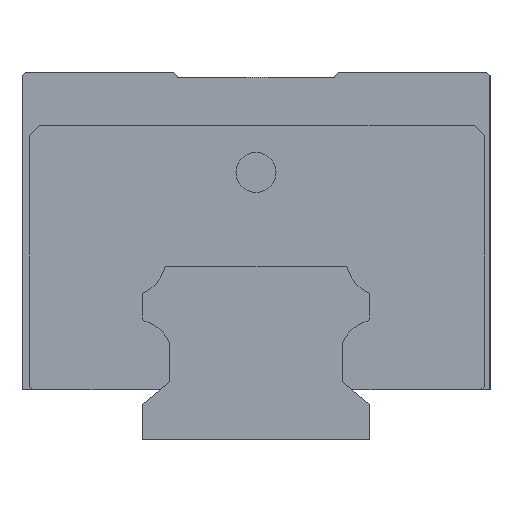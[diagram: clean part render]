
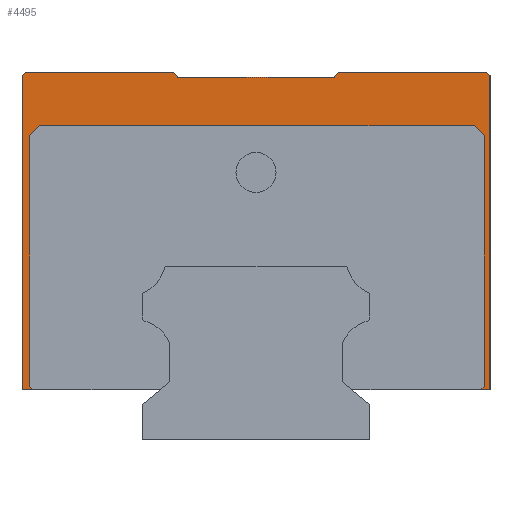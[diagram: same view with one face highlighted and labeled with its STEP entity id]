
A CAD part, left-side view. The second image highlights one B-rep face of the part: STEP entity #4495.
In plain terms, the highlighted planar face has unit normal (-1, 0, 0).
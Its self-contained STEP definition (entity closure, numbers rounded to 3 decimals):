
#60 = DIRECTION ( 'NONE',  ( 0., 0.707, 0.707 ) ) ;
#61 = CARTESIAN_POINT ( 'NONE',  ( -39.5, 12.296, 55. ) ) ;
#170 = CARTESIAN_POINT ( 'NONE',  ( -39.5, 35., 7.5 ) ) ;
#178 = VECTOR ( 'NONE', #60, 1000. ) ;
#263 = CARTESIAN_POINT ( 'NONE',  ( -39.5, -33.628, 7.5 ) ) ;
#285 = DIRECTION ( 'NONE',  ( 0., 0.643, 0.766 ) ) ;
#302 = DIRECTION ( 'NONE',  ( 0., -1., 0. ) ) ;
#365 = LINE ( 'NONE', #1342, #1072 ) ;
#400 = CARTESIAN_POINT ( 'NONE',  ( -39.5, -35., 7.5 ) ) ;
#435 = VERTEX_POINT ( 'NONE', #2605 ) ;
#469 = ORIENTED_EDGE ( 'NONE', *, *, #3415, .F. ) ;
#535 = DIRECTION ( 'NONE',  ( 0., -0.707, 0.707 ) ) ;
#545 = VECTOR ( 'NONE', #621, 1000. ) ;
#588 = EDGE_CURVE ( 'NONE', #5674, #435, #2805, .T. ) ;
#621 = DIRECTION ( 'NONE',  ( 0., 1., 0. ) ) ;
#674 = VERTEX_POINT ( 'NONE', #2185 ) ;
#738 = CARTESIAN_POINT ( 'NONE',  ( -39.5, -35., 55. ) ) ;
#764 = CARTESIAN_POINT ( 'NONE',  ( -39.5, -11.667, 54.25 ) ) ;
#820 = VERTEX_POINT ( 'NONE', #2352 ) ;
#841 = LINE ( 'NONE', #400, #3614 ) ;
#848 = EDGE_CURVE ( 'NONE', #1917, #674, #3618, .T. ) ;
#974 = CARTESIAN_POINT ( 'NONE',  ( -39.5, 14.65, 7.5 ) ) ;
#990 = VERTEX_POINT ( 'NONE', #1083 ) ;
#1018 = EDGE_CURVE ( 'NONE', #5177, #5674, #2024, .T. ) ;
#1072 = VECTOR ( 'NONE', #4921, 1000. ) ;
#1083 = CARTESIAN_POINT ( 'NONE',  ( -39.5, -11.667, 54.25 ) ) ;
#1144 = DIRECTION ( 'NONE',  ( 0., 0., -1. ) ) ;
#1202 = VECTOR ( 'NONE', #1144, 1000. ) ;
#1210 = VECTOR ( 'NONE', #535, 1000. ) ;
#1217 = VERTEX_POINT ( 'NONE', #2063 ) ;
#1239 = LINE ( 'NONE', #2497, #1400 ) ;
#1241 = CARTESIAN_POINT ( 'NONE',  ( -39.5, 32.372, 47. ) ) ;
#1265 = CARTESIAN_POINT ( 'NONE',  ( -39.5, 33.872, 8. ) ) ;
#1272 = ORIENTED_EDGE ( 'NONE', *, *, #3711, .F. ) ;
#1331 = CARTESIAN_POINT ( 'NONE',  ( -39.5, 34.5, 55. ) ) ;
#1342 = CARTESIAN_POINT ( 'NONE',  ( -39.5, -12.296, 55. ) ) ;
#1400 = VECTOR ( 'NONE', #5615, 1000. ) ;
#1418 = VERTEX_POINT ( 'NONE', #1331 ) ;
#1434 = DIRECTION ( 'NONE',  ( 0., 0.707, 0.707 ) ) ;
#1506 = CARTESIAN_POINT ( 'NONE',  ( -39.5, -33.628, 7.5 ) ) ;
#1535 = VERTEX_POINT ( 'NONE', #5418 ) ;
#1538 = EDGE_CURVE ( 'NONE', #4053, #3972, #4976, .T. ) ;
#1638 = LINE ( 'NONE', #2141, #4933 ) ;
#1650 = DIRECTION ( 'NONE',  ( 1., 0., 0. ) ) ;
#1731 = ORIENTED_EDGE ( 'NONE', *, *, #2488, .F. ) ;
#1762 = CARTESIAN_POINT ( 'NONE',  ( -39.5, -34.128, 45.5 ) ) ;
#1816 = ORIENTED_EDGE ( 'NONE', *, *, #3962, .T. ) ;
#1873 = LINE ( 'NONE', #3663, #2882 ) ;
#1916 = VECTOR ( 'NONE', #3589, 1000. ) ;
#1917 = VERTEX_POINT ( 'NONE', #1762 ) ;
#1964 = VERTEX_POINT ( 'NONE', #2233 ) ;
#1969 = CARTESIAN_POINT ( 'NONE',  ( -39.5, -32.628, 47. ) ) ;
#1982 = EDGE_CURVE ( 'NONE', #4053, #3133, #1873, .T. ) ;
#2009 = VECTOR ( 'NONE', #5677, 1000. ) ;
#2016 = ORIENTED_EDGE ( 'NONE', *, *, #1538, .F. ) ;
#2024 = LINE ( 'NONE', #5168, #1202 ) ;
#2036 = VECTOR ( 'NONE', #5102, 1000. ) ;
#2063 = CARTESIAN_POINT ( 'NONE',  ( -39.5, -34.128, 8. ) ) ;
#2085 = ORIENTED_EDGE ( 'NONE', *, *, #5387, .T. ) ;
#2090 = FACE_OUTER_BOUND ( 'NONE', #2485, .T. ) ;
#2141 = CARTESIAN_POINT ( 'NONE',  ( -39.5, 11.667, 54.25 ) ) ;
#2185 = CARTESIAN_POINT ( 'NONE',  ( -39.5, -32.628, 47. ) ) ;
#2233 = CARTESIAN_POINT ( 'NONE',  ( -39.5, 35., 54.5 ) ) ;
#2329 = LINE ( 'NONE', #1969, #4221 ) ;
#2352 = CARTESIAN_POINT ( 'NONE',  ( -39.5, 32.372, 47. ) ) ;
#2416 = VERTEX_POINT ( 'NONE', #61 ) ;
#2485 = EDGE_LOOP ( 'NONE', ( #2965, #1272, #3094, #2016, #3340, #469, #2085, #1816, #5477, #5622, #5707, #5208, #2912, #3923, #4386, #4635, #1731, #4612 ) ) ;
#2488 = EDGE_CURVE ( 'NONE', #674, #820, #2329, .T. ) ;
#2497 = CARTESIAN_POINT ( 'NONE',  ( -39.5, 34.5, 55. ) ) ;
#2558 = DIRECTION ( 'NONE',  ( 0., 1., 0. ) ) ;
#2559 = PLANE ( 'NONE',  #5510 ) ;
#2605 = CARTESIAN_POINT ( 'NONE',  ( -39.5, 33.372, 7.5 ) ) ;
#2617 = CARTESIAN_POINT ( 'NONE',  ( -39.5, -35., 54.5 ) ) ;
#2716 = CARTESIAN_POINT ( 'NONE',  ( -39.5, -34.128, 45.5 ) ) ;
#2805 = LINE ( 'NONE', #4157, #4380 ) ;
#2842 = VERTEX_POINT ( 'NONE', #3752 ) ;
#2863 = DIRECTION ( 'NONE',  ( 0., -0.707, -0.707 ) ) ;
#2882 = VECTOR ( 'NONE', #1434, 1000. ) ;
#2912 = ORIENTED_EDGE ( 'NONE', *, *, #3716, .F. ) ;
#2965 = ORIENTED_EDGE ( 'NONE', *, *, #3024, .F. ) ;
#2976 = CARTESIAN_POINT ( 'NONE',  ( -39.5, 35., 55. ) ) ;
#3012 = CARTESIAN_POINT ( 'NONE',  ( -39.5, 35., 55. ) ) ;
#3024 = EDGE_CURVE ( 'NONE', #1217, #1917, #4397, .T. ) ;
#3094 = ORIENTED_EDGE ( 'NONE', *, *, #4923, .F. ) ;
#3133 = VERTEX_POINT ( 'NONE', #4485 ) ;
#3259 = CARTESIAN_POINT ( 'NONE',  ( -39.5, 11.667, 54.25 ) ) ;
#3340 = ORIENTED_EDGE ( 'NONE', *, *, #1982, .T. ) ;
#3415 = EDGE_CURVE ( 'NONE', #2842, #3133, #4828, .T. ) ;
#3438 = DIRECTION ( 'NONE',  ( 0., 1., 0. ) ) ;
#3589 = DIRECTION ( 'NONE',  ( 0., 0., -1. ) ) ;
#3614 = VECTOR ( 'NONE', #5377, 1000. ) ;
#3618 = LINE ( 'NONE', #2716, #178 ) ;
#3663 = CARTESIAN_POINT ( 'NONE',  ( -39.5, -35., 54.5 ) ) ;
#3680 = LINE ( 'NONE', #974, #545 ) ;
#3711 = EDGE_CURVE ( 'NONE', #3919, #1217, #5087, .T. ) ;
#3716 = EDGE_CURVE ( 'NONE', #435, #1535, #3680, .T. ) ;
#3752 = CARTESIAN_POINT ( 'NONE',  ( -39.5, -12.296, 55. ) ) ;
#3760 = VERTEX_POINT ( 'NONE', #3259 ) ;
#3833 = LINE ( 'NONE', #3012, #5117 ) ;
#3881 = EDGE_CURVE ( 'NONE', #1418, #1964, #1239, .T. ) ;
#3919 = VERTEX_POINT ( 'NONE', #263 ) ;
#3923 = ORIENTED_EDGE ( 'NONE', *, *, #588, .F. ) ;
#3962 = EDGE_CURVE ( 'NONE', #990, #3760, #4795, .T. ) ;
#3972 = VERTEX_POINT ( 'NONE', #5324 ) ;
#4053 = VERTEX_POINT ( 'NONE', #2617 ) ;
#4116 = CARTESIAN_POINT ( 'NONE',  ( -39.5, -35., 55. ) ) ;
#4139 = VECTOR ( 'NONE', #302, 1000. ) ;
#4157 = CARTESIAN_POINT ( 'NONE',  ( -39.5, 33.872, 8. ) ) ;
#4159 = EDGE_CURVE ( 'NONE', #1535, #1964, #4547, .T. ) ;
#4221 = VECTOR ( 'NONE', #5447, 1000. ) ;
#4248 = CARTESIAN_POINT ( 'NONE',  ( -39.5, 33.872, 45.5 ) ) ;
#4308 = VECTOR ( 'NONE', #2558, 1000. ) ;
#4380 = VECTOR ( 'NONE', #2863, 1000. ) ;
#4386 = ORIENTED_EDGE ( 'NONE', *, *, #1018, .F. ) ;
#4397 = LINE ( 'NONE', #4663, #5069 ) ;
#4485 = CARTESIAN_POINT ( 'NONE',  ( -39.5, -34.5, 55. ) ) ;
#4495 = ADVANCED_FACE ( 'NONE', ( #2090 ), #2559, .F. ) ;
#4547 = LINE ( 'NONE', #170, #2036 ) ;
#4612 = ORIENTED_EDGE ( 'NONE', *, *, #848, .F. ) ;
#4635 = ORIENTED_EDGE ( 'NONE', *, *, #5575, .F. ) ;
#4663 = CARTESIAN_POINT ( 'NONE',  ( -39.5, -34.128, 8. ) ) ;
#4795 = LINE ( 'NONE', #764, #4308 ) ;
#4828 = LINE ( 'NONE', #2976, #4139 ) ;
#4843 = EDGE_CURVE ( 'NONE', #3760, #2416, #1638, .T. ) ;
#4921 = DIRECTION ( 'NONE',  ( 0., 0.643, -0.766 ) ) ;
#4923 = EDGE_CURVE ( 'NONE', #3972, #3919, #841, .T. ) ;
#4933 = VECTOR ( 'NONE', #285, 1000. ) ;
#4976 = LINE ( 'NONE', #4116, #1916 ) ;
#5069 = VECTOR ( 'NONE', #5279, 1000. ) ;
#5087 = LINE ( 'NONE', #1506, #1210 ) ;
#5102 = DIRECTION ( 'NONE',  ( 0., 0., 1. ) ) ;
#5117 = VECTOR ( 'NONE', #5629, 1000. ) ;
#5168 = CARTESIAN_POINT ( 'NONE',  ( -39.5, 33.872, 45.5 ) ) ;
#5177 = VERTEX_POINT ( 'NONE', #4248 ) ;
#5208 = ORIENTED_EDGE ( 'NONE', *, *, #4159, .F. ) ;
#5221 = EDGE_CURVE ( 'NONE', #1418, #2416, #3833, .T. ) ;
#5279 = DIRECTION ( 'NONE',  ( 0., 0., 1. ) ) ;
#5324 = CARTESIAN_POINT ( 'NONE',  ( -39.5, -35., 7.5 ) ) ;
#5377 = DIRECTION ( 'NONE',  ( 0., 1., 0. ) ) ;
#5387 = EDGE_CURVE ( 'NONE', #2842, #990, #365, .T. ) ;
#5418 = CARTESIAN_POINT ( 'NONE',  ( -39.5, 35., 7.5 ) ) ;
#5447 = DIRECTION ( 'NONE',  ( 0., 1., 0. ) ) ;
#5477 = ORIENTED_EDGE ( 'NONE', *, *, #4843, .T. ) ;
#5510 = AXIS2_PLACEMENT_3D ( 'NONE', #738, #1650, #3438 ) ;
#5575 = EDGE_CURVE ( 'NONE', #820, #5177, #5763, .T. ) ;
#5615 = DIRECTION ( 'NONE',  ( 0., 0.707, -0.707 ) ) ;
#5622 = ORIENTED_EDGE ( 'NONE', *, *, #5221, .F. ) ;
#5629 = DIRECTION ( 'NONE',  ( 0., -1., 0. ) ) ;
#5674 = VERTEX_POINT ( 'NONE', #1265 ) ;
#5677 = DIRECTION ( 'NONE',  ( 0., 0.707, -0.707 ) ) ;
#5707 = ORIENTED_EDGE ( 'NONE', *, *, #3881, .T. ) ;
#5763 = LINE ( 'NONE', #1241, #2009 ) ;
